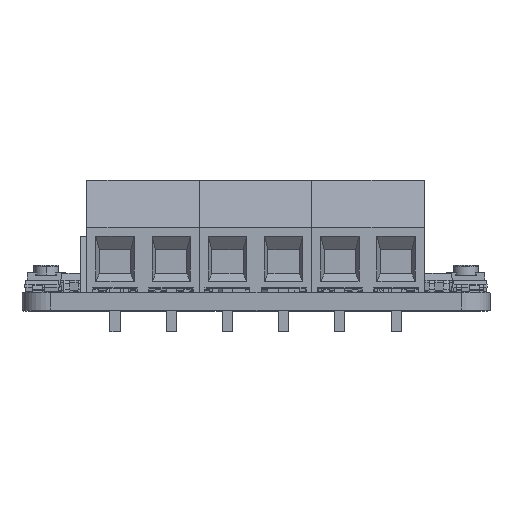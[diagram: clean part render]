
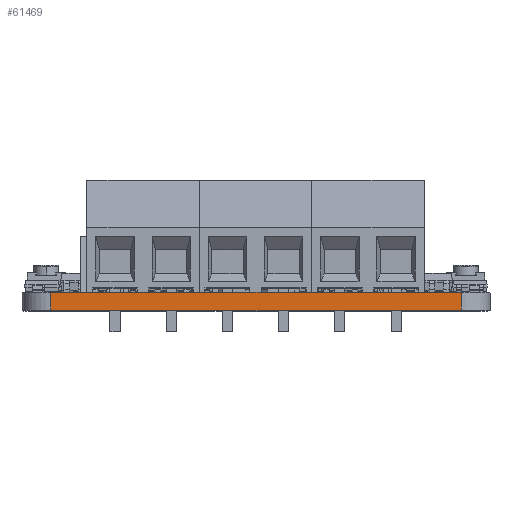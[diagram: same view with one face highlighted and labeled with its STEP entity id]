
A CAD part, top view. The second image highlights one B-rep face of the part: STEP entity #61469.
In plain terms, the highlighted planar face has unit normal (0, 0, 1) as drawn and (-1, 0, 0) by its records, which use the part's own axes.
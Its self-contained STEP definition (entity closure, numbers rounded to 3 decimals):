
#315 = CARTESIAN_POINT ( 'NONE',  ( 0., 2.54, 0. ) ) ;
#2759 = VERTEX_POINT ( 'NONE', #65390 ) ;
#4784 = DIRECTION ( 'NONE',  ( 0., -1., 0. ) ) ;
#8862 = LINE ( 'NONE', #37242, #62384 ) ;
#9073 = VERTEX_POINT ( 'NONE', #33223 ) ;
#18710 = EDGE_CURVE ( 'NONE', #2759, #65179, #37487, .T. ) ;
#24745 = CARTESIAN_POINT ( 'NONE',  ( 0., 39.116, 0. ) ) ;
#25059 = VECTOR ( 'NONE', #46256, 1000. ) ;
#27119 = DIRECTION ( 'NONE',  ( 0., 1., 0. ) ) ;
#27832 = ORIENTED_EDGE ( 'NONE', *, *, #30909, .F. ) ;
#30909 = EDGE_CURVE ( 'NONE', #2759, #41240, #68187, .T. ) ;
#33223 = CARTESIAN_POINT ( 'NONE',  ( 0., 39.116, 0. ) ) ;
#36953 = EDGE_CURVE ( 'NONE', #65179, #9073, #50139, .T. ) ;
#37242 = CARTESIAN_POINT ( 'NONE',  ( 0., 39.116, 0. ) ) ;
#37487 = LINE ( 'NONE', #38356, #48325 ) ;
#38356 = CARTESIAN_POINT ( 'NONE',  ( 0., 39.116, 1.57 ) ) ;
#39100 = CARTESIAN_POINT ( 'NONE',  ( 0., 39.116, 1.57 ) ) ;
#41240 = VERTEX_POINT ( 'NONE', #315 ) ;
#43414 = DIRECTION ( 'NONE',  ( 0., 0., -1. ) ) ;
#45703 = ORIENTED_EDGE ( 'NONE', *, *, #36953, .T. ) ;
#46256 = DIRECTION ( 'NONE',  ( 0., 0., -1. ) ) ;
#48325 = VECTOR ( 'NONE', #27119, 1000. ) ;
#48791 = CARTESIAN_POINT ( 'NONE',  ( 0., 2.54, 0. ) ) ;
#50139 = LINE ( 'NONE', #24745, #25059 ) ;
#51077 = ORIENTED_EDGE ( 'NONE', *, *, #68075, .T. ) ;
#53607 = FACE_OUTER_BOUND ( 'NONE', #56678, .T. ) ;
#53849 = VECTOR ( 'NONE', #43414, 1000. ) ;
#56015 = AXIS2_PLACEMENT_3D ( 'NONE', #63867, #58935, #62254 ) ;
#56678 = EDGE_LOOP ( 'NONE', ( #59808, #45703, #51077, #27832 ) ) ;
#58476 = PLANE ( 'NONE',  #56015 ) ;
#58935 = DIRECTION ( 'NONE',  ( -1., 0., 0. ) ) ;
#59808 = ORIENTED_EDGE ( 'NONE', *, *, #18710, .T. ) ;
#61469 = ADVANCED_FACE ( 'NONE', ( #53607 ), #58476, .T. ) ;
#62254 = DIRECTION ( 'NONE',  ( 0., 0., 1. ) ) ;
#62384 = VECTOR ( 'NONE', #4784, 1000. ) ;
#63867 = CARTESIAN_POINT ( 'NONE',  ( 0., 39.116, 0. ) ) ;
#65179 = VERTEX_POINT ( 'NONE', #39100 ) ;
#65390 = CARTESIAN_POINT ( 'NONE',  ( 0., 2.54, 1.57 ) ) ;
#68075 = EDGE_CURVE ( 'NONE', #9073, #41240, #8862, .T. ) ;
#68187 = LINE ( 'NONE', #48791, #53849 ) ;
